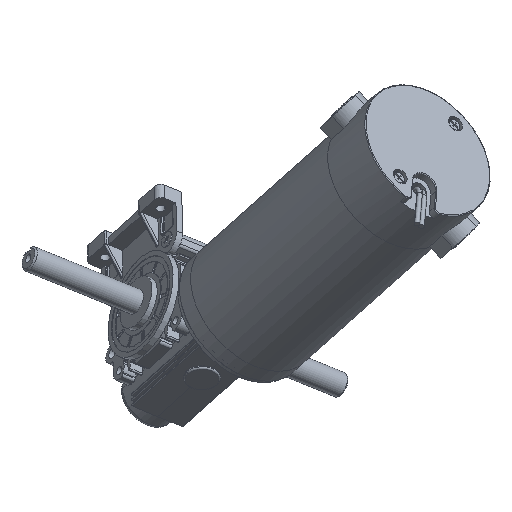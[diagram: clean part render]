
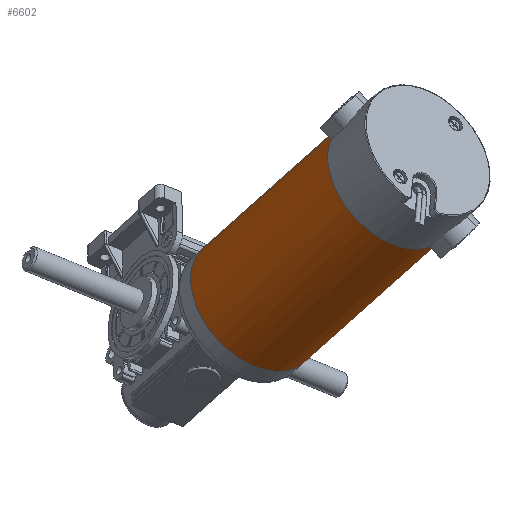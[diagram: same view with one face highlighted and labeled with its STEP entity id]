
A CAD part, top view. The second image highlights one B-rep face of the part: STEP entity #6602.
In plain terms, the highlighted cylindrical face has radius 41 mm (diameter 82 mm), a partial arc.
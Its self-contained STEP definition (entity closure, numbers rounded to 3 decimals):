
#989 = ORIENTED_EDGE ( 'NONE', *, *, #33341, .F. ) ;
#1041 = VERTEX_POINT ( 'NONE', #18497 ) ;
#1265 = CARTESIAN_POINT ( 'NONE',  ( 626.765, -216.924, -35.5 ) ) ;
#5904 = VECTOR ( 'NONE', #13263, 1000. ) ;
#6602 = ADVANCED_FACE ( 'NONE', ( #7908 ), #12084, .T. ) ;
#7908 = FACE_OUTER_BOUND ( 'NONE', #9582, .T. ) ;
#9448 = VERTEX_POINT ( 'NONE', #13170 ) ;
#9582 = EDGE_LOOP ( 'NONE', ( #35221, #989, #12736, #32909 ) ) ;
#11196 = CARTESIAN_POINT ( 'NONE',  ( 544.765, -216.924, -165. ) ) ;
#11771 = DIRECTION ( 'NONE',  ( 0., 0., -1. ) ) ;
#12084 = CYLINDRICAL_SURFACE ( 'NONE', #13072, 41. ) ;
#12736 = ORIENTED_EDGE ( 'NONE', *, *, #28539, .T. ) ;
#13072 = AXIS2_PLACEMENT_3D ( 'NONE', #35032, #34581, #33969 ) ;
#13170 = CARTESIAN_POINT ( 'NONE',  ( 544.765, -216.924, -165. ) ) ;
#13263 = DIRECTION ( 'NONE',  ( 0., 0., 1. ) ) ;
#13659 = EDGE_CURVE ( 'NONE', #9448, #37531, #26322, .T. ) ;
#14799 = LINE ( 'NONE', #30822, #5904 ) ;
#16658 = CARTESIAN_POINT ( 'NONE',  ( 544.765, -216.924, -35.5 ) ) ;
#16675 = CARTESIAN_POINT ( 'NONE',  ( 585.765, -216.924, -35.5 ) ) ;
#18497 = CARTESIAN_POINT ( 'NONE',  ( 626.765, -216.924, -165. ) ) ;
#19618 = DIRECTION ( 'NONE',  ( -1., 0., 0. ) ) ;
#23235 = AXIS2_PLACEMENT_3D ( 'NONE', #16675, #37129, #19618 ) ;
#24651 = CIRCLE ( 'NONE', #23235, 41. ) ;
#26322 = LINE ( 'NONE', #11196, #33179 ) ;
#27231 = AXIS2_PLACEMENT_3D ( 'NONE', #29312, #11771, #32292 ) ;
#28539 = EDGE_CURVE ( 'NONE', #1041, #36779, #14799, .T. ) ;
#29312 = CARTESIAN_POINT ( 'NONE',  ( 585.765, -216.924, -165. ) ) ;
#30822 = CARTESIAN_POINT ( 'NONE',  ( 626.765, -216.924, -165. ) ) ;
#31699 = DIRECTION ( 'NONE',  ( 0., 0., 1. ) ) ;
#31917 = EDGE_CURVE ( 'NONE', #36779, #37531, #24651, .T. ) ;
#32292 = DIRECTION ( 'NONE',  ( -1., 0., 0. ) ) ;
#32909 = ORIENTED_EDGE ( 'NONE', *, *, #31917, .T. ) ;
#33179 = VECTOR ( 'NONE', #31699, 1000. ) ;
#33341 = EDGE_CURVE ( 'NONE', #1041, #9448, #38238, .T. ) ;
#33969 = DIRECTION ( 'NONE',  ( 1., 0., 0. ) ) ;
#34581 = DIRECTION ( 'NONE',  ( 0., 0., 1. ) ) ;
#35032 = CARTESIAN_POINT ( 'NONE',  ( 585.765, -216.924, -165. ) ) ;
#35221 = ORIENTED_EDGE ( 'NONE', *, *, #13659, .F. ) ;
#36779 = VERTEX_POINT ( 'NONE', #1265 ) ;
#37129 = DIRECTION ( 'NONE',  ( 0., 0., -1. ) ) ;
#37531 = VERTEX_POINT ( 'NONE', #16658 ) ;
#38238 = CIRCLE ( 'NONE', #27231, 41. ) ;
